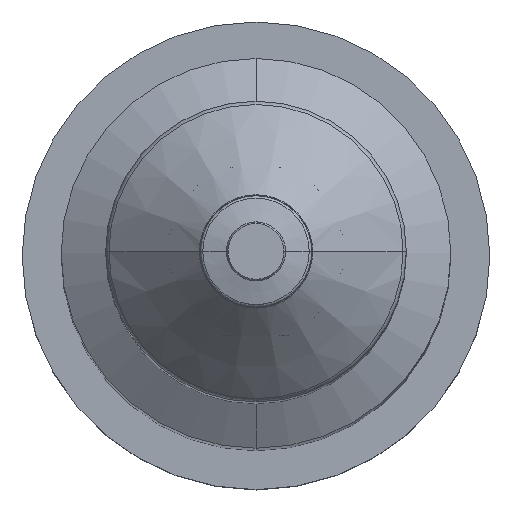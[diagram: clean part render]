
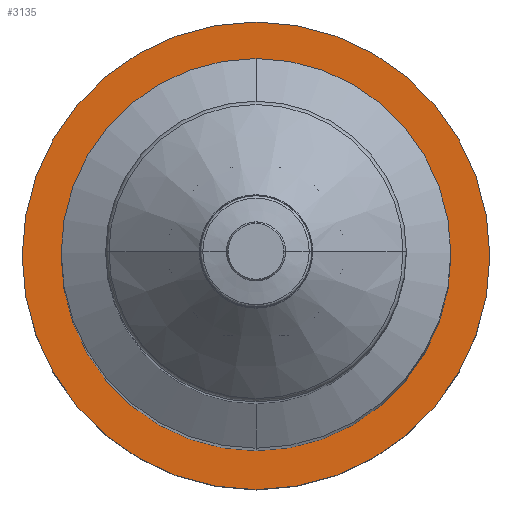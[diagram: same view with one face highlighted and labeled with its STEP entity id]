
A CAD part, top view. The second image highlights one B-rep face of the part: STEP entity #3135.
In plain terms, the highlighted planar face has unit normal (0, 0, 1).
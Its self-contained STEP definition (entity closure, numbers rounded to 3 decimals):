
#92 = CARTESIAN_POINT ( 'NONE',  ( 0., 0., 15. ) ) ;
#128 = DIRECTION ( 'NONE',  ( 0., 0., 1. ) ) ;
#2054 = VERTEX_POINT ( 'NONE', #21951 ) ;
#2599 = EDGE_CURVE ( 'NONE', #7224, #26707, #27015, .T. ) ;
#2704 = EDGE_LOOP ( 'NONE', ( #16192, #13018 ) ) ;
#3135 = ADVANCED_FACE ( 'NONE', ( #11248, #11894 ), #19348, .T. ) ;
#3960 = ORIENTED_EDGE ( 'NONE', *, *, #19256, .F. ) ;
#4584 = DIRECTION ( 'NONE',  ( 0., 0., 1. ) ) ;
#4880 = CIRCLE ( 'NONE', #25095, 17.5 ) ;
#6484 = DIRECTION ( 'NONE',  ( -1., 0., 0. ) ) ;
#7224 = VERTEX_POINT ( 'NONE', #17563 ) ;
#9298 = CARTESIAN_POINT ( 'NONE',  ( 0., 0., 15. ) ) ;
#11017 = CIRCLE ( 'NONE', #23656, 21. ) ;
#11157 = DIRECTION ( 'NONE',  ( 0., 0., -1. ) ) ;
#11248 = FACE_BOUND ( 'NONE', #2704, .T. ) ;
#11419 = DIRECTION ( 'NONE',  ( 1., 0., 0. ) ) ;
#11894 = FACE_OUTER_BOUND ( 'NONE', #14352, .T. ) ;
#12601 = AXIS2_PLACEMENT_3D ( 'NONE', #25239, #21030, #25330 ) ;
#13018 = ORIENTED_EDGE ( 'NONE', *, *, #14187, .F. ) ;
#13026 = DIRECTION ( 'NONE',  ( -1., 0., 0. ) ) ;
#14187 = EDGE_CURVE ( 'NONE', #26707, #7224, #4880, .T. ) ;
#14352 = EDGE_LOOP ( 'NONE', ( #3960, #22439 ) ) ;
#14384 = AXIS2_PLACEMENT_3D ( 'NONE', #92, #4584, #6484 ) ;
#15046 = DIRECTION ( 'NONE',  ( -1., 0., 0. ) ) ;
#15741 = VERTEX_POINT ( 'NONE', #16405 ) ;
#16192 = ORIENTED_EDGE ( 'NONE', *, *, #2599, .F. ) ;
#16405 = CARTESIAN_POINT ( 'NONE',  ( -21., 0., 15. ) ) ;
#16785 = EDGE_CURVE ( 'NONE', #15741, #2054, #11017, .T. ) ;
#17563 = CARTESIAN_POINT ( 'NONE',  ( 0., 17.5, 15. ) ) ;
#18044 = AXIS2_PLACEMENT_3D ( 'NONE', #19151, #21331, #13026 ) ;
#19151 = CARTESIAN_POINT ( 'NONE',  ( 13.5, 0., 15. ) ) ;
#19256 = EDGE_CURVE ( 'NONE', #2054, #15741, #22346, .T. ) ;
#19348 = PLANE ( 'NONE',  #18044 ) ;
#19491 = CARTESIAN_POINT ( 'NONE',  ( 0., -17.5, 15. ) ) ;
#21030 = DIRECTION ( 'NONE',  ( 0., 0., -1. ) ) ;
#21331 = DIRECTION ( 'NONE',  ( 0., 0., 1. ) ) ;
#21951 = CARTESIAN_POINT ( 'NONE',  ( 21., 0., 15. ) ) ;
#22346 = CIRCLE ( 'NONE', #12601, 21. ) ;
#22439 = ORIENTED_EDGE ( 'NONE', *, *, #16785, .F. ) ;
#23054 = CARTESIAN_POINT ( 'NONE',  ( 0., 0., 15. ) ) ;
#23656 = AXIS2_PLACEMENT_3D ( 'NONE', #9298, #11157, #11419 ) ;
#25095 = AXIS2_PLACEMENT_3D ( 'NONE', #23054, #128, #15046 ) ;
#25239 = CARTESIAN_POINT ( 'NONE',  ( 0., 0., 15. ) ) ;
#25330 = DIRECTION ( 'NONE',  ( 1., 0., 0. ) ) ;
#26707 = VERTEX_POINT ( 'NONE', #19491 ) ;
#27015 = CIRCLE ( 'NONE', #14384, 17.5 ) ;
